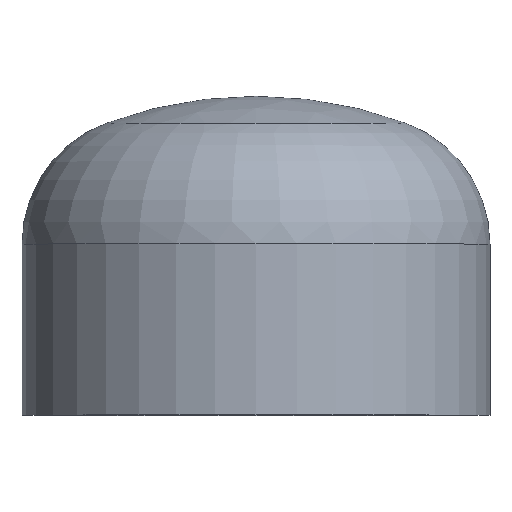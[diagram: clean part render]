
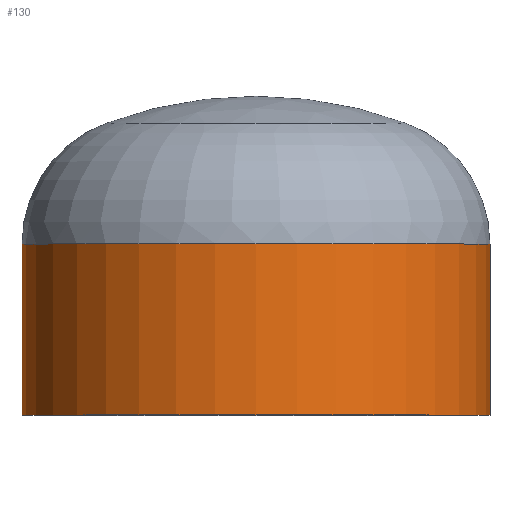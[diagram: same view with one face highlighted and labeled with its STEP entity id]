
A CAD part, top view. The second image highlights one B-rep face of the part: STEP entity #130.
In plain terms, the highlighted cylindrical face has radius 177.8 mm (diameter 355.6 mm), a partial arc.
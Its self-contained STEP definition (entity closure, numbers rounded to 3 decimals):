
#6 = CARTESIAN_POINT ( 'NONE',  ( -177.8, 0., 0. ) ) ;
#11 = DIRECTION ( 'NONE',  ( 0., -1., 0. ) ) ;
#19 = VERTEX_POINT ( 'NONE', #70 ) ;
#70 = CARTESIAN_POINT ( 'NONE',  ( -177.8, 130., 0. ) ) ;
#79 = ORIENTED_EDGE ( 'NONE', *, *, #383, .F. ) ;
#84 = ORIENTED_EDGE ( 'NONE', *, *, #364, .T. ) ;
#85 = VERTEX_POINT ( 'NONE', #226 ) ;
#88 = CARTESIAN_POINT ( 'NONE',  ( 177.8, 130., 0. ) ) ;
#89 = DIRECTION ( 'NONE',  ( 1., 0., 0. ) ) ;
#96 = EDGE_CURVE ( 'NONE', #85, #244, #285, .T. ) ;
#111 = CARTESIAN_POINT ( 'NONE',  ( -177.8, 0., 0. ) ) ;
#113 = CIRCLE ( 'NONE', #346, 177.8 ) ;
#130 = ADVANCED_FACE ( 'NONE', ( #217 ), #277, .T. ) ;
#141 = VERTEX_POINT ( 'NONE', #88 ) ;
#146 = ORIENTED_EDGE ( 'NONE', *, *, #408, .T. ) ;
#147 = ORIENTED_EDGE ( 'NONE', *, *, #96, .F. ) ;
#171 = CARTESIAN_POINT ( 'NONE',  ( 0., 0., 0. ) ) ;
#177 = EDGE_LOOP ( 'NONE', ( #146, #84, #147, #79 ) ) ;
#180 = CARTESIAN_POINT ( 'NONE',  ( 0., 0., 0. ) ) ;
#181 = AXIS2_PLACEMENT_3D ( 'NONE', #171, #192, #188 ) ;
#188 = DIRECTION ( 'NONE',  ( 1., 0., 0. ) ) ;
#192 = DIRECTION ( 'NONE',  ( 0., -1., 0. ) ) ;
#201 = CARTESIAN_POINT ( 'NONE',  ( 0., 130., 0. ) ) ;
#207 = DIRECTION ( 'NONE',  ( 0., -1., 0. ) ) ;
#217 = FACE_OUTER_BOUND ( 'NONE', #177, .T. ) ;
#226 = CARTESIAN_POINT ( 'NONE',  ( 177.8, 0., 0. ) ) ;
#230 = DIRECTION ( 'NONE',  ( 1., 0., 0. ) ) ;
#234 = VECTOR ( 'NONE', #324, 1000. ) ;
#244 = VERTEX_POINT ( 'NONE', #6 ) ;
#253 = CARTESIAN_POINT ( 'NONE',  ( 177.8, 0., 0. ) ) ;
#255 = AXIS2_PLACEMENT_3D ( 'NONE', #180, #207, #89 ) ;
#277 = CYLINDRICAL_SURFACE ( 'NONE', #255, 177.8 ) ;
#285 = CIRCLE ( 'NONE', #181, 177.8 ) ;
#297 = LINE ( 'NONE', #253, #356 ) ;
#324 = DIRECTION ( 'NONE',  ( 0., -1., 0. ) ) ;
#346 = AXIS2_PLACEMENT_3D ( 'NONE', #201, #377, #230 ) ;
#356 = VECTOR ( 'NONE', #11, 1000. ) ;
#363 = LINE ( 'NONE', #111, #234 ) ;
#364 = EDGE_CURVE ( 'NONE', #19, #244, #363, .T. ) ;
#377 = DIRECTION ( 'NONE',  ( 0., -1., 0. ) ) ;
#383 = EDGE_CURVE ( 'NONE', #141, #85, #297, .T. ) ;
#408 = EDGE_CURVE ( 'NONE', #141, #19, #113, .T. ) ;
